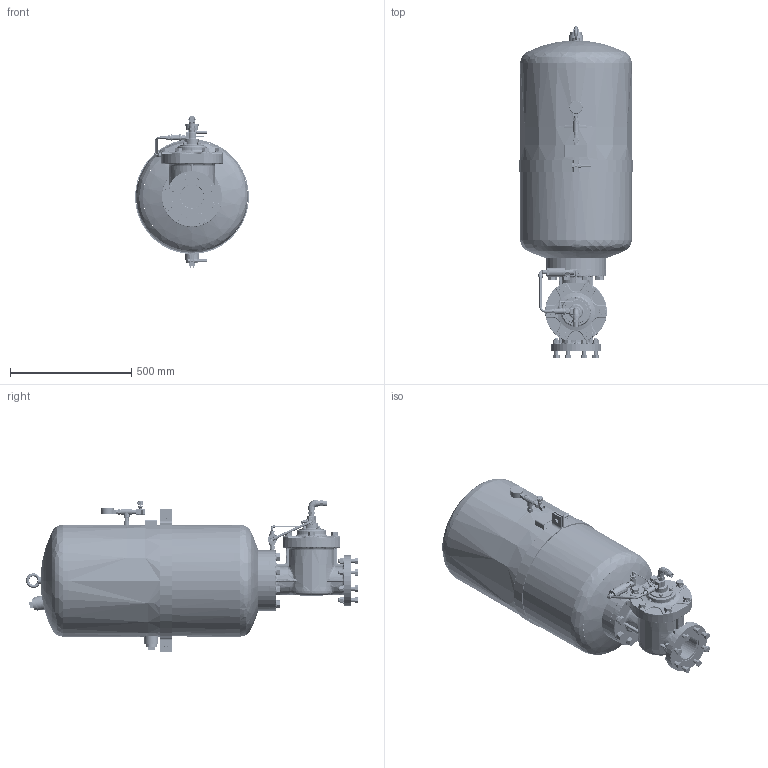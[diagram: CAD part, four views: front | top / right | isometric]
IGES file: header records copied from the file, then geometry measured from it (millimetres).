
Start section: SolidWorks IGES file using analytic representation for surfaces
Global section: file name: V:\WORK\08133\HP 寸法図\blaster\EDB4-130\test_876000V-000 EDB4-130_defeature.IGS,15; native system: HSolidWorks 2018; preprocessor: SolidWorks 2018; author: n-udagawa; date: 230118.160433; units: millimetre
Bounding box: 469 x 1369.75 x 628 mm (x, y, z)
Surface area: 2233704.9 mm2 (no closed solid volume)
Topology: 0 solids, 0 shells, 2337 faces, 40687 edges, 46184 vertices
Faces by surface type: bspline 1229, revolution 1108
